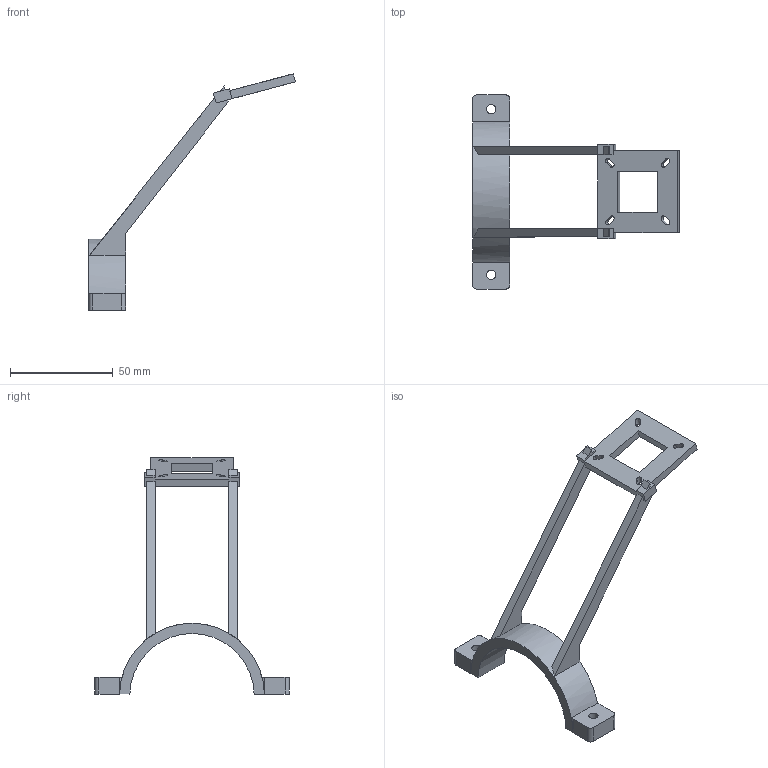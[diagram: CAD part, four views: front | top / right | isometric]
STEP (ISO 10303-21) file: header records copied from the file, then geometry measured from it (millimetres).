
FILE_DESCRIPTION(('Open CASCADE Model'),'2;1');
FILE_NAME('Open CASCADE Shape Model','2026-09-19T13:10:39',('Author'),( 'Open CASCADE'),'Open CASCADE STEP processor 7.9','Open CASCADE 7.9' ,'Unknown');
FILE_SCHEMA(('AUTOMOTIVE_DESIGN { 1 0 10303 214 1 1 1 1 }'));
Length unit declared in the file: millimetre
Products named in the file (1): Open CASCADE STEP translator 7.9 5
Bounding box: 100.69 x 94.6 x 115.12 mm (x, y, z)
Volume: 22880.4 mm3; surface area: 14002.5 mm2
Topology: 1 solids, 1 shells, 74 faces, 222 edges, 148 vertices
Faces by surface type: plane 54, cylinder 20
Full cylindrical faces by diameter (mm): 4.5 x2
Entity records: 5656 total; most frequent: CARTESIAN_POINT 1351, DIRECTION 762, LINE 508, VECTOR 508, ORIENTED_EDGE 444, PCURVE 444, DEFINITIONAL_REPRESENTATION 444, EDGE_CURVE 222
